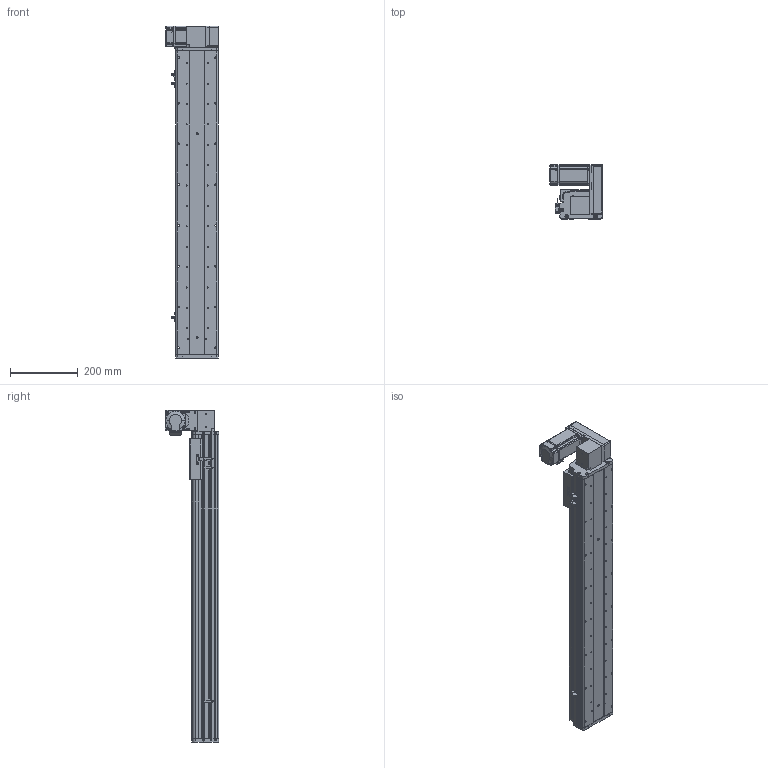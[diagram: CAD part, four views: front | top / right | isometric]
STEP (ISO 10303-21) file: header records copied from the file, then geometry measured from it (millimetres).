
FILE_DESCRIPTION (( 'STEP AP214' ), '1' );
FILE_NAME ('KSD125B-S700-MLU-CM.STEP', '2017-10-21T03:21:01', ( '微软用户' ), ( '微软中国' ), 'SwSTEP 2.0', 'SolidWorks 2014', '' );
FILE_SCHEMA (( 'AUTOMOTIVE_DESIGN' ));
Length unit declared in the file: millimetre
Products named in the file (17): U倰嫖萇假蚾璃; U倰嫖萇EEㄜSX672; KSD125模组同步带-防撞垫1; 前端板-125宽模组同步带; 125模组同步带-尾端板1; KSD125模组同步带-滑动座1; KSD125B-S700-MLU-CM; 悵誘欶奻狟殏; 100宽马达安装板连板上下折丝杆同步带; HTPA30S3M150_A_H6_a佪裝蚚; HTPA30S3M150_A_H6_a萇儂蚚; 100宽马达安装板同步带左; KSD125模组700行程同步带-防尘盖; 125模组700行程同步带-底板; MHMD042G1CA_2_03; KSD125模组同步带-防撞垫2; 覜茼え68遵圉猾敕
Assembly tree (20 placements, depth 2):
  KSD125B-S700-MLU-CM
    KSD125模组同步带-滑动座1
    125模组同步带-尾端板1
    前端板-125宽模组同步带
    KSD125模组同步带-防撞垫1
    U倰嫖萇EEㄜSX672  x3
    U倰嫖萇假蚾璃  x3
    覜茼え68遵圉猾敕
    KSD125模组同步带-防撞垫2
    MHMD042G1CA_2_03
    125模组700行程同步带-底板
    KSD125模组700行程同步带-防尘盖
    100宽马达安装板同步带左
    HTPA30S3M150_A_H6_a萇儂蚚
    HTPA30S3M150_A_H6_a佪裝蚚
    100宽马达安装板连板上下折丝杆同步带
    悵誘欶奻狟殏
Bounding box: 155 x 157.5 x 977 mm (x, y, z)
Volume: 3124438.2 mm3; surface area: 1068434.3 mm2
Topology: 19 solids, 22 shells, 2271 faces, 6577 edges, 4346 vertices
Faces by surface type: cylinder 1420, plane 724, cone 105, bspline 22
Entity records: 80651 total; most frequent: CARTESIAN_POINT 15939, DIRECTION 12542, ORIENTED_EDGE 11674, EDGE_CURVE 5915, AXIS2_PLACEMENT_3D 4845, VERTEX_POINT 3938, VECTOR 2852, LINE 2852
